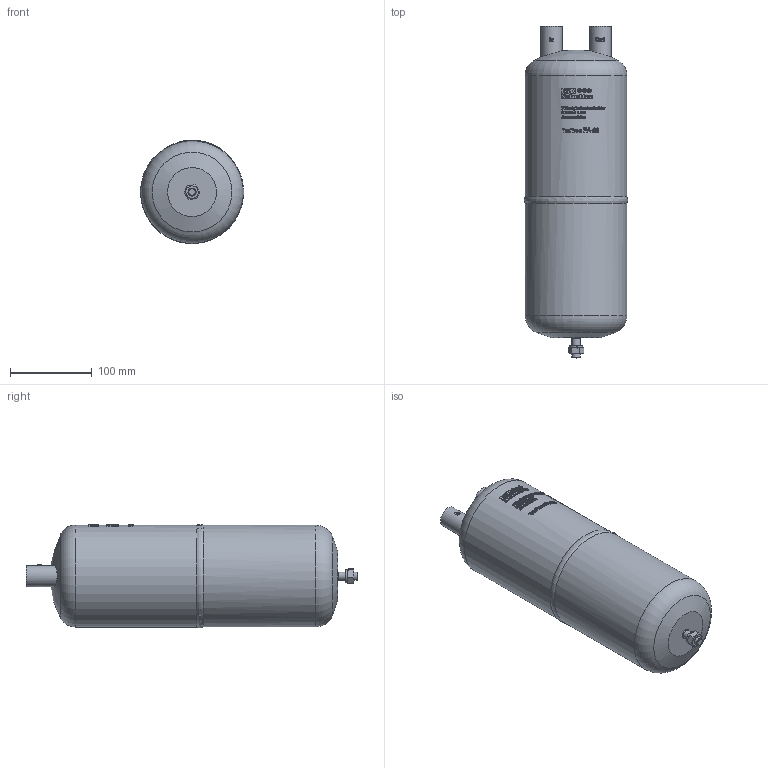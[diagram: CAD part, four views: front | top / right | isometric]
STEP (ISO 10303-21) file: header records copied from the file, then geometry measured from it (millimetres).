
FILE_DESCRIPTION(/* description */ (''),/* implementation_level */ '2;1');
FILE_NAME(/* name */ 'P:\FA\FA-22\FA-22.stp',/* time_stamp */ '2017-10-04T15:57:00+02:00',/* author */ ('neufeld'),/* organization */ (''),/* preprocessor_version */ 'ST-DEVELOPER v16.1',/* originating_system */ 'Autodesk Inventor 2016',/* authorisation */ '');
FILE_SCHEMA (('AUTOMOTIVE_DESIGN { 1 0 10303 214 3 1 1 }'));
Length unit declared in the file: millimetre
Products named in the file (2): FA-22; FA-22_1
Assembly tree (1 placements, depth 2):
  FA-22_1
    FA-22
Bounding box: 126.65 x 407.3 x 126.78 mm (x, y, z)
Volume: 4161758.3 mm3; surface area: 161289.3 mm2
Topology: 1 solids, 1 shells, 1236 faces, 3364 edges, 2241 vertices
Faces by surface type: plane 667, bspline 447, cylinder 113, cone 4, torus 3, sphere 2
Full cylindrical faces by diameter (mm): 10 x2, 22.4 x2, 26 x2, 125 x2
Entity records: 48461 total; most frequent: CARTESIAN_POINT 19519, ORIENTED_EDGE 6692, DIRECTION 4867, EDGE_CURVE 3346, VERTEX_POINT 2238, AXIS2_PLACEMENT_3D 1636, LINE 1595, VECTOR 1595
